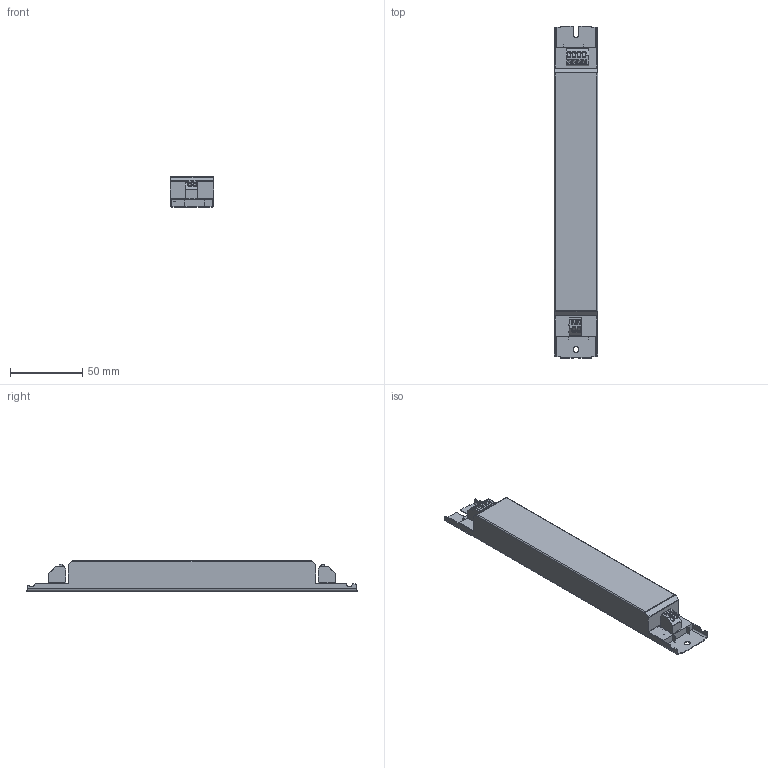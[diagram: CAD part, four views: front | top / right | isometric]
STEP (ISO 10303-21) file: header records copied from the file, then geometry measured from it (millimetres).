
FILE_DESCRIPTION((''),'2;1');
FILE_NAME('15012821_00','2019-03-05T12:09:24',('elon.guo'),(''),'CREO PARAMETRIC BY PTC INC, 2017380','CREO PARAMETRIC BY PTC INC, 2017380','');
FILE_SCHEMA(('AUTOMOTIVE_DESIGN { 1 0 10303 214 1 1 1 1 }'));
Length unit declared in the file: millimetre
Products named in the file (1): 15012821_00
Bounding box: 30 x 230 x 21 mm (x, y, z)
Volume: 115503.8 mm3; surface area: 24245.9 mm2
Topology: 1 solids, 9 shells, 428 faces, 1260 edges, 842 vertices
Faces by surface type: plane 293, cylinder 119, cone 12, torus 4
Entity records: 21667 total; most frequent: CARTESIAN_POINT 2892, ORIENTED_EDGE 2502, DIRECTION 2325, PRESENTATION_STYLE_ASSIGNMENT 1665, STYLED_ITEM 1268, CURVE_STYLE 1260, EDGE_CURVE 1260, VECTOR 911
